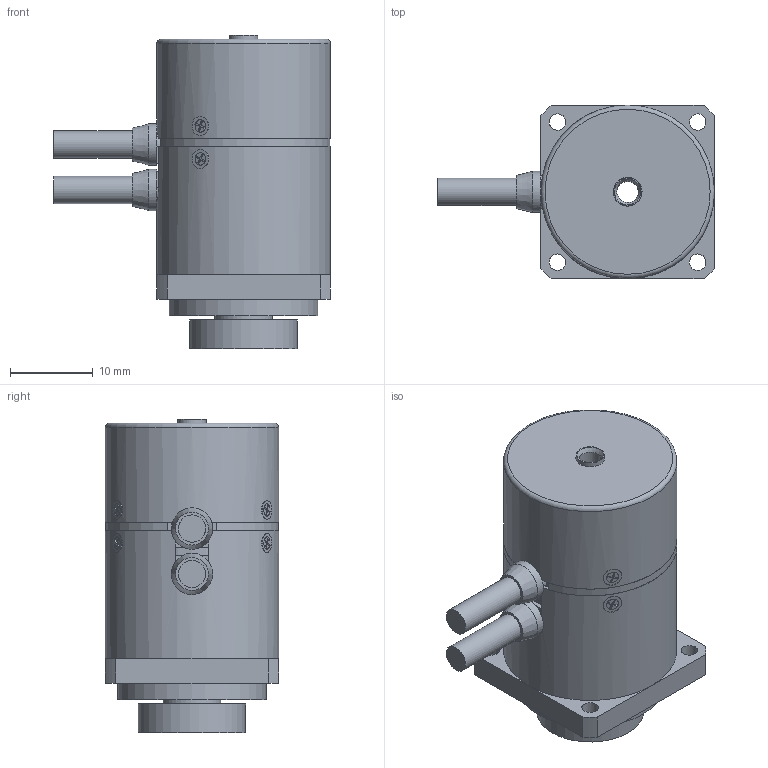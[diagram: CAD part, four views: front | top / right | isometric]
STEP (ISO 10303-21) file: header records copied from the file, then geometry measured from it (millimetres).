
FILE_DESCRIPTION(('STEP AP214'),'1');
FILE_NAME('MDH-2006.stp','2017-10-10T07:00:37',(' '),(' '),'Spatial InterOp 3D',' ',' ');
FILE_SCHEMA(('automotive_design'));
Length unit declared in the file: millimetre
Products named in the file (11): ケーブル; タッピングネジ M1.4x2.2; サラコネジ M1.4x2.5; ｱﾝｷﾞｭﾗﾍﾞｱﾘﾝｸﾞ MTA04-11; ｱﾝｷﾞｭﾗﾍﾞｱﾘﾝｸﾞ MTA05-13; ブッシュ; カバー_H; ベース; シャフト_H2006; ケース_2006
Assembly tree (16 placements, depth 2):
  (unnamed)
    ケーブル  x2
    タッピングネジ M1.4x2.2  x3
    サラコネジ M1.4x2.5  x3
    ｱﾝｷﾞｭﾗﾍﾞｱﾘﾝｸﾞ MTA04-11
    ｱﾝｷﾞｭﾗﾍﾞｱﾘﾝｸﾞ MTA05-13
    ブッシュ  x2
    カバー_H
    ベース
    シャフト_H2006
    ケース_2006
Bounding box: 33.5 x 21 x 38 mm (x, y, z)
Volume: 5297.5 mm3; surface area: 10730.5 mm2
Topology: 17 solids, 18 shells, 359 faces, 840 edges, 546 vertices
Faces by surface type: plane 201, cylinder 119, cone 29, torus 10
Full cylindrical faces by diameter (mm): 0.75 x6, 1.1 x6, 1.25 x6, 1.4 x12, 1.5 x6, 2 x4, 2.3 x6, 2.6 x1, 3.3 x4, 3.4 x1, 3.5 x1, 4 x3, 4.2 x1, 5 x4, 6 x1, 6.2 x4, 7 x1, 7.2 x3, 7.3 x1, 7.6 x1, 8.1 x1, 8.6 x1, 9.5 x5, 9.9 x1, 11 x2, 11.2 x1, 11.3 x3, 11.5 x1, 13 x3, 16 x1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
Entity records: 9544 total; most frequent: CARTESIAN_POINT 1735, DIRECTION 1180, ORIENTED_EDGE 908, AXIS2_PLACEMENT_3D 486, EDGE_CURVE 454, EDGE_LOOP 452, VERTEX_POINT 359, FACE_OUTER_BOUND 353
